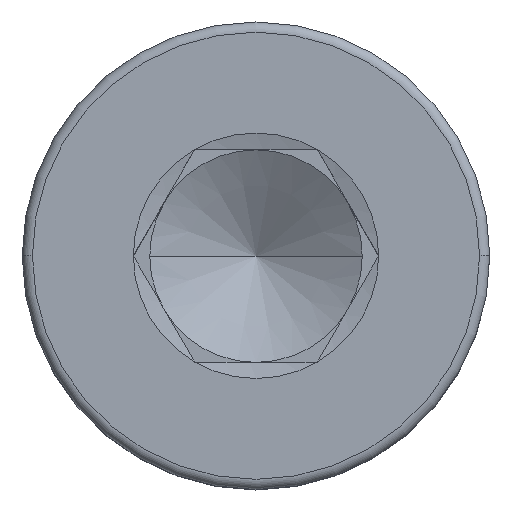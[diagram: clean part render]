
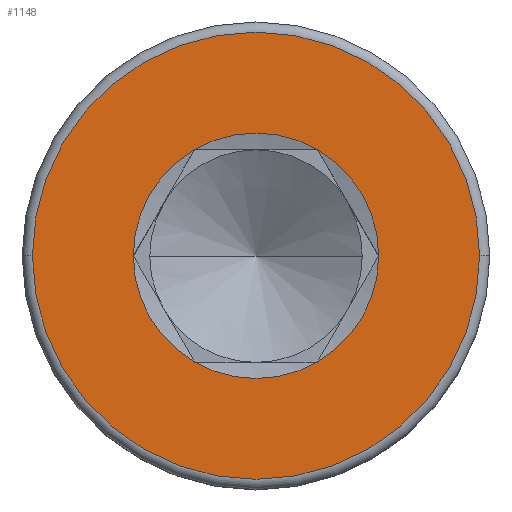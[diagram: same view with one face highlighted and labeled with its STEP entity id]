
A CAD part, top view. The second image highlights one B-rep face of the part: STEP entity #1148.
In plain terms, the highlighted planar face has unit normal (0, 0, 1).
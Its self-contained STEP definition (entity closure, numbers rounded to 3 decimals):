
#5 = VERTEX_POINT ( 'NONE', #1037 ) ;
#12 = CARTESIAN_POINT ( 'NONE',  ( 0., 0., 3. ) ) ;
#53 = EDGE_CURVE ( 'NONE', #796, #632, #1597, .T. ) ;
#85 = ORIENTED_EDGE ( 'NONE', *, *, #1367, .F. ) ;
#160 = CARTESIAN_POINT ( 'NONE',  ( 0., 0., 3. ) ) ;
#176 = ORIENTED_EDGE ( 'NONE', *, *, #866, .T. ) ;
#179 = DIRECTION ( 'NONE',  ( 1., 0., 0. ) ) ;
#181 = DIRECTION ( 'NONE',  ( 1., 0., 0. ) ) ;
#193 = DIRECTION ( 'NONE',  ( 1., 0., 0. ) ) ;
#194 = CARTESIAN_POINT ( 'NONE',  ( 0., 0., 3. ) ) ;
#220 = FACE_BOUND ( 'NONE', #514, .T. ) ;
#222 = AXIS2_PLACEMENT_3D ( 'NONE', #160, #1080, #179 ) ;
#275 = FACE_OUTER_BOUND ( 'NONE', #1520, .T. ) ;
#303 = DIRECTION ( 'NONE',  ( 0., 0., 1. ) ) ;
#317 = CARTESIAN_POINT ( 'NONE',  ( 2.63, 0., 3. ) ) ;
#332 = AXIS2_PLACEMENT_3D ( 'NONE', #1684, #1420, #1837 ) ;
#364 = CARTESIAN_POINT ( 'NONE',  ( 1.443, 0., 3. ) ) ;
#367 = ORIENTED_EDGE ( 'NONE', *, *, #742, .F. ) ;
#423 = VERTEX_POINT ( 'NONE', #364 ) ;
#475 = ORIENTED_EDGE ( 'NONE', *, *, #1722, .T. ) ;
#477 = CARTESIAN_POINT ( 'NONE',  ( 0.722, -1.25, 3. ) ) ;
#484 = AXIS2_PLACEMENT_3D ( 'NONE', #628, #1122, #712 ) ;
#513 = CIRCLE ( 'NONE', #1545, 1.443 ) ;
#514 = EDGE_LOOP ( 'NONE', ( #85, #1471, #701, #713, #367, #1005 ) ) ;
#591 = VERTEX_POINT ( 'NONE', #317 ) ;
#628 = CARTESIAN_POINT ( 'NONE',  ( 0., 0., 3. ) ) ;
#632 = VERTEX_POINT ( 'NONE', #1086 ) ;
#661 = CARTESIAN_POINT ( 'NONE',  ( 0., 0., 3. ) ) ;
#673 = DIRECTION ( 'NONE',  ( 0., 0., 1. ) ) ;
#701 = ORIENTED_EDGE ( 'NONE', *, *, #1647, .F. ) ;
#712 = DIRECTION ( 'NONE',  ( 1., 0., 0. ) ) ;
#713 = ORIENTED_EDGE ( 'NONE', *, *, #53, .F. ) ;
#742 = EDGE_CURVE ( 'NONE', #1624, #796, #1353, .T. ) ;
#786 = EDGE_CURVE ( 'NONE', #1337, #423, #1842, .T. ) ;
#792 = CIRCLE ( 'NONE', #935, 1.443 ) ;
#796 = VERTEX_POINT ( 'NONE', #1188 ) ;
#819 = CIRCLE ( 'NONE', #332, 1.443 ) ;
#849 = CIRCLE ( 'NONE', #484, 2.63 ) ;
#866 = EDGE_CURVE ( 'NONE', #1410, #591, #1631, .T. ) ;
#887 = DIRECTION ( 'NONE',  ( 1., 0., 0. ) ) ;
#925 = CARTESIAN_POINT ( 'NONE',  ( 0., 0., 3. ) ) ;
#935 = AXIS2_PLACEMENT_3D ( 'NONE', #12, #1328, #1313 ) ;
#960 = AXIS2_PLACEMENT_3D ( 'NONE', #1334, #1614, #181 ) ;
#1005 = ORIENTED_EDGE ( 'NONE', *, *, #1826, .F. ) ;
#1037 = CARTESIAN_POINT ( 'NONE',  ( 0.722, 1.25, 3. ) ) ;
#1062 = CARTESIAN_POINT ( 'NONE',  ( -0.722, 1.25, 3. ) ) ;
#1080 = DIRECTION ( 'NONE',  ( 0., 0., 1. ) ) ;
#1086 = CARTESIAN_POINT ( 'NONE',  ( -0.722, -1.25, 3. ) ) ;
#1122 = DIRECTION ( 'NONE',  ( 0., 0., 1. ) ) ;
#1148 = ADVANCED_FACE ( 'NONE', ( #275, #220 ), #1372, .T. ) ;
#1188 = CARTESIAN_POINT ( 'NONE',  ( -1.443, 0., 3. ) ) ;
#1217 = DIRECTION ( 'NONE',  ( 1., 0., 0. ) ) ;
#1227 = DIRECTION ( 'NONE',  ( 1., 0., 0. ) ) ;
#1294 = AXIS2_PLACEMENT_3D ( 'NONE', #1607, #303, #887 ) ;
#1313 = DIRECTION ( 'NONE',  ( 1., 0., 0. ) ) ;
#1328 = DIRECTION ( 'NONE',  ( 0., 0., 1. ) ) ;
#1334 = CARTESIAN_POINT ( 'NONE',  ( 0., 0., 3. ) ) ;
#1337 = VERTEX_POINT ( 'NONE', #477 ) ;
#1348 = DIRECTION ( 'NONE',  ( 0., 0., 1. ) ) ;
#1353 = CIRCLE ( 'NONE', #1602, 1.443 ) ;
#1367 = EDGE_CURVE ( 'NONE', #423, #5, #792, .T. ) ;
#1372 = PLANE ( 'NONE',  #1447 ) ;
#1410 = VERTEX_POINT ( 'NONE', #1771 ) ;
#1420 = DIRECTION ( 'NONE',  ( 0., 0., 1. ) ) ;
#1447 = AXIS2_PLACEMENT_3D ( 'NONE', #661, #673, #1227 ) ;
#1471 = ORIENTED_EDGE ( 'NONE', *, *, #786, .F. ) ;
#1502 = DIRECTION ( 'NONE',  ( 0., 0., 1. ) ) ;
#1520 = EDGE_LOOP ( 'NONE', ( #475, #176 ) ) ;
#1545 = AXIS2_PLACEMENT_3D ( 'NONE', #194, #1348, #1217 ) ;
#1597 = CIRCLE ( 'NONE', #222, 1.443 ) ;
#1602 = AXIS2_PLACEMENT_3D ( 'NONE', #925, #1502, #193 ) ;
#1607 = CARTESIAN_POINT ( 'NONE',  ( 0., 0., 3. ) ) ;
#1614 = DIRECTION ( 'NONE',  ( 0., 0., 1. ) ) ;
#1624 = VERTEX_POINT ( 'NONE', #1062 ) ;
#1631 = CIRCLE ( 'NONE', #1294, 2.63 ) ;
#1647 = EDGE_CURVE ( 'NONE', #632, #1337, #513, .T. ) ;
#1684 = CARTESIAN_POINT ( 'NONE',  ( 0., 0., 3. ) ) ;
#1722 = EDGE_CURVE ( 'NONE', #591, #1410, #849, .T. ) ;
#1771 = CARTESIAN_POINT ( 'NONE',  ( -2.63, 0., 3. ) ) ;
#1826 = EDGE_CURVE ( 'NONE', #5, #1624, #819, .T. ) ;
#1837 = DIRECTION ( 'NONE',  ( 1., 0., 0. ) ) ;
#1842 = CIRCLE ( 'NONE', #960, 1.443 ) ;
